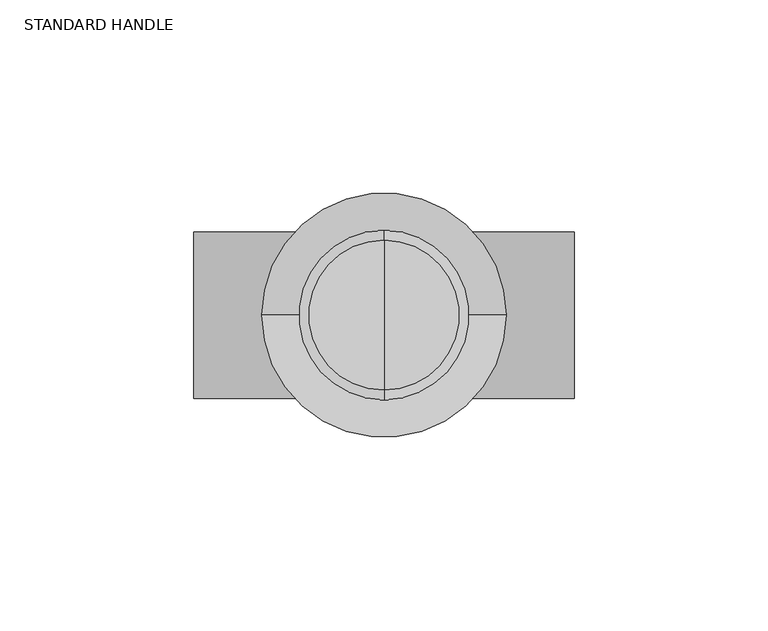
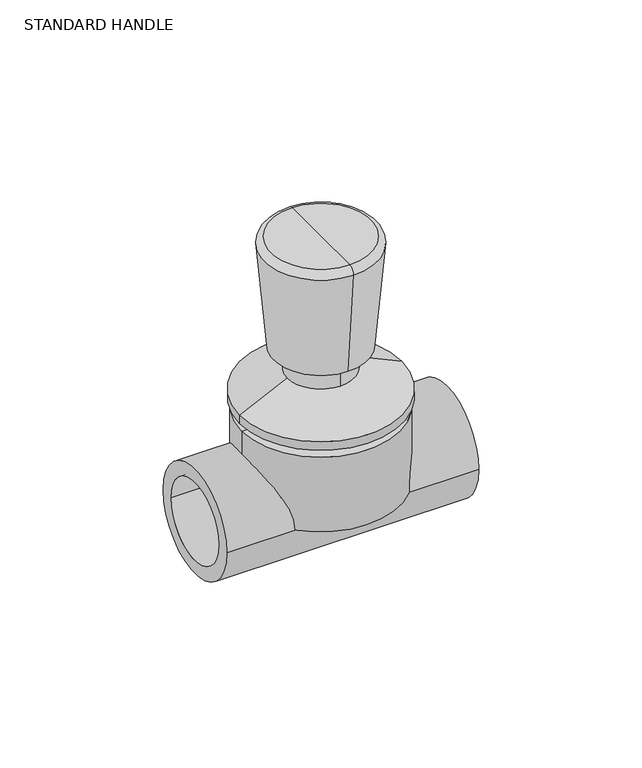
"""IFC4 building model written with IfcOpenShell, lengths in millimetres: valve geometry, Aquatherm - Concealed Valve Standard With Handle : STANDARD HANDLE."""

from ifc_helpers import new_model, si_unit, point, frame, origin, origin_2d, place, context, project, spatial, polyline, circle_curve, ellipse_curve, trimmed, segment, composite_curve, outline, extrude, source, transform, mapped, element, save
from ifc_brep_helpers import plane_surface, cylinder_surface, revolved_surface, advanced_brep


def standard_handle_37e33900(model_context):
    return source(origin(), model_context, "Body", "SolidModel", [
        advanced_brep(
        [(0.0, 19.3406564, 100.076), (0.0, -19.3406564, 100.076), (0.0, 0.0, 100.076), (0.0, 21.870991, 97.3146244), (0.0, -21.870991, 97.3146244), (0.0, 18.2125979, 55.499), (0.0, -18.2125979, 55.499), (0.0, 12.9442633, 55.499), (0.0, -12.9442633, 55.499), (0.0, 12.9442633, 46.289595), (0.0, -12.9442633, 46.289595), (0.0, 0.0, 46.289595)],
        [
            (0, 1, circle_curve(frame((0.0, 0.0, 100.076), z_axis=(0.0, 0.0, 1.0), x_axis=(0.0, -1.0, 0.0)), 19.3406564)),
            (1, 2),
            (2, 0),
            (1, 0, circle_curve(frame((0.0, 0.0, 100.076), z_axis=(0.0, 0.0, 1.0), x_axis=(0.0, -1.0, 0.0)), 19.3406564)),
            (3, 4, circle_curve(frame((0.0, 0.0, 97.3146244), z_axis=(0.0, 0.0, 1.0), x_axis=(0.0, -1.0, 0.0)), 21.870991)),
            (4, 1, circle_curve(frame((0.0, -19.3406564, 97.536), z_axis=(-1.0, 0.0, 0.0), x_axis=(0.0, -1.0, 0.0)), 2.54)),
            (0, 3, circle_curve(frame((0.0, 19.3406564, 97.536), z_axis=(-1.0, 0.0, 0.0), x_axis=(0.0, 1.0, 0.0)), 2.54)),
            (4, 3, circle_curve(frame((0.0, 0.0, 97.3146244), z_axis=(0.0, 0.0, 1.0), x_axis=(0.0, -1.0, 0.0)), 21.870991)),
            (5, 6, circle_curve(frame((0.0, 0.0, 55.499), z_axis=(0.0, 0.0, 1.0), x_axis=(0.0, -1.0, 0.0)), 18.2125979)),
            (6, 4),
            (3, 5),
            (6, 5, circle_curve(frame((0.0, 0.0, 55.499), z_axis=(0.0, 0.0, 1.0), x_axis=(0.0, -1.0, 0.0)), 18.2125979)),
            (7, 8, circle_curve(frame((0.0, 0.0, 55.499), z_axis=(0.0, 0.0, 1.0), x_axis=(0.0, -1.0, 0.0)), 12.9442633)),
            (8, 6),
            (5, 7),
            (8, 7, circle_curve(frame((0.0, 0.0, 55.499), z_axis=(0.0, 0.0, 1.0), x_axis=(0.0, -1.0, 0.0)), 12.9442633)),
            (9, 10, circle_curve(frame((0.0, 0.0, 46.289595), z_axis=(0.0, 0.0, 1.0), x_axis=(0.0, -1.0, 0.0)), 12.9442633)),
            (10, 8),
            (7, 9),
            (10, 9, circle_curve(frame((0.0, 0.0, 46.289595), z_axis=(0.0, 0.0, 1.0), x_axis=(0.0, -1.0, 0.0)), 12.9442633)),
            (11, 10),
            (9, 11),
        ],
        [
            plane_surface(frame((0.0, 0.0, 100.076), z_axis=(0.0, 0.0, 1.0), x_axis=(0.0, -1.0, 0.0))),
            revolved_surface(trimmed(ellipse_curve(frame((0.0, -19.3406564, 97.536), z_axis=(1.0, 0.0, 0.0), x_axis=(0.0, -1.0, 0.0)), 2.54, 2.54), [point((0.0, -19.3406564, 100.076))], [point((0.0, -21.870991, 97.3146244))], True, "CARTESIAN"), (0.0, 0.0, 122.6556097), (0.0, 0.0, -1.0)),
            revolved_surface(polyline([(0.0, -21.870991, 97.3146244), (0.0, -18.2125979, 55.499)]), (0.0, 0.0, 122.6556097), (0.0, 0.0, -1.0)),
            plane_surface(frame((0.0, 0.0, 55.499), z_axis=(0.0, 0.0, -1.0), x_axis=(0.0, -1.0, 0.0))),
            cylinder_surface(frame((0.0, 0.0, 122.6556097), z_axis=(0.0, 0.0, -1.0), x_axis=(0.0, -1.0, 0.0)), 12.9442633),
            plane_surface(frame((0.0, 0.0, 46.289595), z_axis=(0.0, 0.0, -1.0), x_axis=(0.0, -1.0, 0.0))),
        ],
        [
            (0, [[1, 2, 3]]),
            (0, [[4, -3, -2]]),
            (1, [[5, 6, -1, 7]]),
            (1, [[8, -7, -4, -6]]),
            (2, [[9, 10, -5, 11]]),
            (2, [[12, -11, -8, -10]]),
            (3, [[13, 14, -9, 15]]),
            (3, [[16, -15, -12, -14]]),
            (4, [[17, 18, -13, 19]]),
            (4, [[20, -19, -16, -18]]),
            (5, [[21, -17, 22]]),
            (5, [[-22, -20, -21]]),
        ],
    ),
        advanced_brep(
        [(-12.827, 0.0, 46.289595), (12.827, 0.0, 46.289595), (-31.496, 0.0, 37.5877667), (31.496, 0.0, 37.5877667)],
        [
            (0, 1, circle_curve(frame((0.0, 0.0, 46.289595), z_axis=(0.0, 0.0, 1.0), x_axis=(-1.0, 0.0, 0.0)), 12.827)),
            (1, 0, circle_curve(frame((0.0, 0.0, 46.289595), z_axis=(0.0, 0.0, 1.0), x_axis=(1.0, 0.0, 0.0)), 12.827)),
            (2, 3, circle_curve(frame((0.0, 0.0, 37.5877667), z_axis=(0.0, 0.0, -1.0), x_axis=(1.0, 0.0, 0.0)), 31.496)),
            (3, 2, circle_curve(frame((0.0, 0.0, 37.5877667), z_axis=(0.0, 0.0, -1.0), x_axis=(-1.0, 0.0, 0.0)), 31.496)),
            (3, 1),
            (0, 2),
        ],
        [
            plane_surface(frame((0.0, 0.0, 46.289595), z_axis=(0.0, 0.0, 1.0), x_axis=(0.0, -1.0, 0.0))),
            plane_surface(frame((0.0, 0.0, 37.5877667), z_axis=(0.0, 0.0, -1.0), x_axis=(0.0, -1.0, 0.0))),
            revolved_surface(polyline([(-12.827000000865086, 0.0, 46.289595), (-31.496, 0.0, 37.5877667)]), (0.0, 0.0, 52.2684022), (0.0, 0.0, -1.0)),
            revolved_surface(polyline([(12.827000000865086, 0.0, 46.289595), (31.496, 0.0, 37.5877667)]), (0.0, 0.0, 52.2684022), (0.0, 0.0, -1.0)),
        ],
        [
            (0, [[1, 2]]),
            (1, [[3, 4]]),
            (2, [[-4, 5, -1, 6]]),
            (3, [[-3, -6, -2, -5]]),
        ],
    ),
        extrude(outline(composite_curve([segment(trimmed(circle_curve(origin_2d(), 31.496), [point((-31.496, 0.0))], [point((31.496, 0.0))], False, "CARTESIAN"), True, "CONTINUOUS"), segment(trimmed(circle_curve(origin_2d(), 31.496), [point((31.496, 0.0))], [point((-31.496, 0.0))], False, "CARTESIAN"), True, "CONTINUOUS")], self_intersect=False)), frame((0.0, 0.0, 34.036), z_axis=(0.0, 0.0, 1.0), x_axis=(1.0, 0.0, 0.0)), (0.0, 0.0, 1.0), 3.5517667),
        extrude(outline(composite_curve([segment(trimmed(circle_curve(origin_2d(), 12.827), [point((0.0, 12.827))], [point((0.0, -12.827))], False, "CARTESIAN"), True, "CONTINUOUS"), segment(trimmed(circle_curve(origin_2d(), 12.827), [point((0.0, -12.827))], [point((0.0, 12.827))], False, "CARTESIAN"), True, "CONTINUOUS")], self_intersect=False)), frame((0.0, 0.0, 30.734), z_axis=(0.0, 0.0, 1.0), x_axis=(1.0, 0.0, 0.0)), (0.0, 0.0, 1.0), 3.302),
        advanced_brep(
        [(0.0, 0.0, 30.734), (30.734, 0.0, 30.734), (-30.734, 0.0, 30.734), (-30.734, 0.0, 0.0), (30.734, 0.0, 0.0), (0.0, 0.0, 0.0)],
        [
            (0, 1),
            (1, 2, circle_curve(frame((0.0, 0.0, 30.734), z_axis=(0.0, 0.0, 1.0), x_axis=(1.0, 0.0, 0.0)), 30.734)),
            (2, 0),
            (2, 1, circle_curve(frame((0.0, 0.0, 30.734), z_axis=(0.0, 0.0, 1.0), x_axis=(1.0, 0.0, 0.0)), 30.734)),
            (3, 4, circle_curve(frame((0.0, 0.0, 0.0), z_axis=(0.0, 0.0, -1.0), x_axis=(1.0, 0.0, 0.0)), 30.734)),
            (4, 5),
            (5, 3),
            (4, 3, circle_curve(frame((0.0, 0.0, 0.0), z_axis=(0.0, 0.0, -1.0), x_axis=(1.0, 0.0, 0.0)), 30.734)),
            (1, 4),
            (3, 2),
        ],
        [
            plane_surface(frame((0.0, 0.0, 30.734), z_axis=(0.0, 0.0, 1.0), x_axis=(1.0, 0.0, 0.0))),
            plane_surface(frame((0.0, 0.0, 0.0), z_axis=(0.0, 0.0, -1.0), x_axis=(1.0, 0.0, 0.0))),
            cylinder_surface(frame((0.0, 0.0, 35.6334889), z_axis=(0.0, 0.0, 1.0), x_axis=(1.0, 0.0, 0.0)), 30.734),
        ],
        [
            (0, [[1, 2, 3]]),
            (0, [[-3, 4, -1]]),
            (1, [[5, 6, 7]]),
            (1, [[8, -7, -6]]),
            (2, [[-2, 9, -5, 10]]),
            (2, [[-4, -10, -8, -9]]),
        ],
    ),
        extrude(outline(composite_curve([segment(trimmed(circle_curve(origin_2d(), 21.463), [point((-21.463, 0.0))], [point((21.463, 0.0))], False, "CARTESIAN"), True, "CONTINUOUS"), segment(trimmed(circle_curve(origin_2d(), 21.463), [point((21.463, 0.0))], [point((-21.463, 0.0))], False, "CARTESIAN"), True, "CONTINUOUS")], self_intersect=False), holes=[composite_curve([segment(trimmed(circle_curve(origin_2d(), 16.002), [point((-16.002, 0.0))], [point((16.002, 0.0))], True, "CARTESIAN"), True, "CONTINUOUS"), segment(trimmed(circle_curve(origin_2d(), 16.002), [point((16.002, 0.0))], [point((-16.002, 0.0))], True, "CARTESIAN"), True, "CONTINUOUS")], self_intersect=False)]), frame((-49.022, 0.0, 0.0), z_axis=(1.0, 0.0, 0.0), x_axis=(0.0, 1.0, 0.0)), (0.0, 0.0, 1.0), 98.044),
    ])


if __name__ == "__main__":
    model = new_model("IFC4")
    model_context = context("Model", 3, world=origin())
    ifc_project = project(units=[si_unit("LENGTHUNIT", "METRE", prefix="MILLI")], contexts=[model_context])
    site = spatial("IfcSite", under=ifc_project)
    building = spatial("IfcBuilding", under=site)
    placement = place(None, origin())
    standard_handle_shape = standard_handle_37e33900(model_context)
    element("IfcValve", 1, ObjectType="Aquatherm - Concealed Valve Standard With Handle : STANDARD HANDLE", at=placement, inside=building, context=model_context, shape_type="MappedRepresentation", body=[
        mapped(standard_handle_shape, transform((0.0, 0.0, 0.0), x_axis=(1.0, 0.0, 0.0), y_axis=(0.0, 1.0, 0.0), z_axis=(0.0, 0.0, 1.0))),
    ])
    save(model, "model.ifc")
